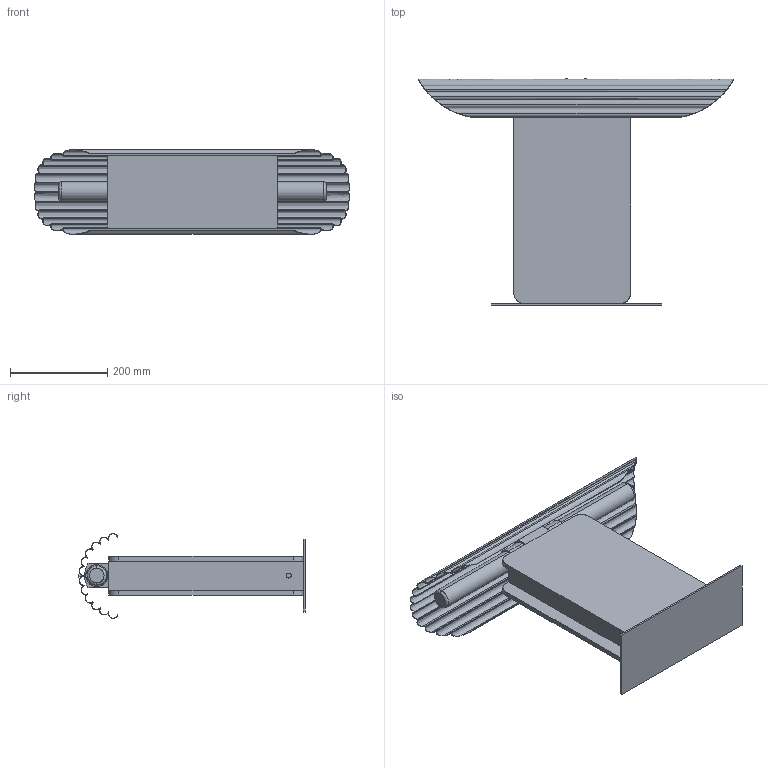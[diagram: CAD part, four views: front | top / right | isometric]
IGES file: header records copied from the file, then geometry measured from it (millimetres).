
Start section: SolidWorks IGES file using analytic representation for surfaces
Global section: file name: C:\Users\Agustin\Desktop\ARNOLD\2024 SEPTIEMBRE\2D\HOLD\2D-3D S1326\HOLD_S1326.IGS; native system: SolidWorks 2018; preprocessor: SolidWorks 2018; author: Agustin; date: 240918.103107; units: millimetre
Bounding box: 650 x 465.93 x 174.37 mm (x, y, z)
Surface area: 1292362.5 mm2 (no closed solid volume)
Topology: 0 solids, 0 shells, 161 faces, 3806 edges, 3806 vertices
Faces by surface type: bspline 87, revolution 74
